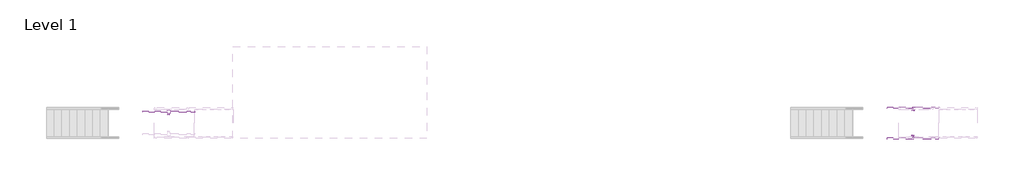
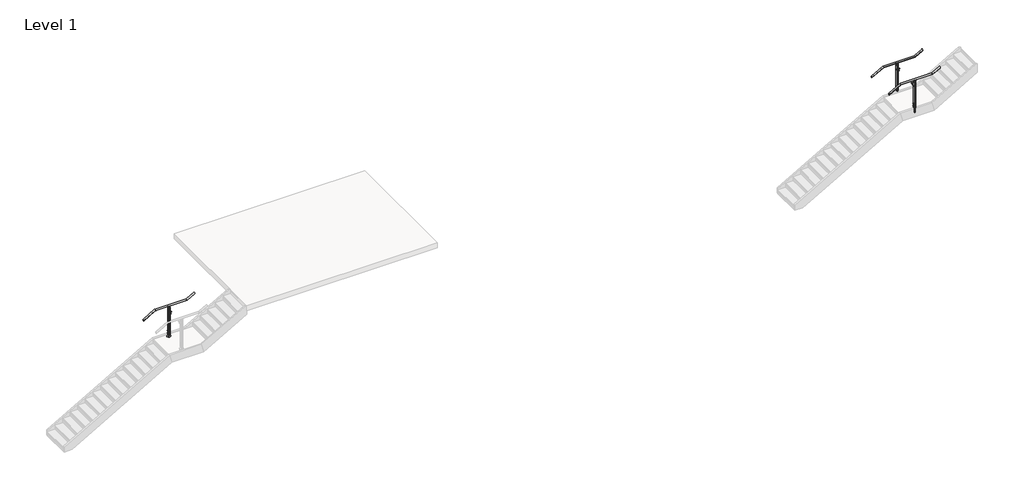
# One storey, part 31 of 36: 3 railings.
"""IFC4 building model written with IfcOpenShell, lengths in millimetres."""

from ifc_helpers import new_model, si_unit, point, frame, frame_2d, origin, place, context, project, spatial, polyline, circle_curve, ellipse_curve, trimmed, segment, composite_curve, outline, extrude, element, save
from ifc_brep_helpers import plane_surface, cylinder_surface, revolved_surface, advanced_brep

model = new_model("IFC4")

# Units and contexts
model_context = context("Model", 3, world=origin())
ifc_project = project(units=[si_unit("LENGTHUNIT", "METRE", prefix="MILLI")], contexts=[model_context])

# Site, building, storey
site = spatial("IfcSite", under=ifc_project)
building = spatial("IfcBuilding", under=site)
storey = spatial("IfcBuildingStorey", under=building, Name="Level 1", Elevation=0.0)

# Railings
placement = place(None, origin())
element("IfcRailing", 1, ObjectType="VIVA-BLADE-CableNet Infill-Panel-Core Mount-Stair-Landing", at=placement, inside=storey, context=model_context, shape_type="SolidModel", body=[
    advanced_brep(
    [(87371.2048368, 33114.0530185, 3047.7740933), (87371.2048368, 33164.8530185, 3047.7740933), (87758.9501735, 33114.0530185, 3269.3428571), (87758.9501735, 33164.8530185, 3269.3428571), (88825.7501735, 33114.0530185, 3269.3428571), (88825.7501735, 33164.8530185, 3269.3428571), (89076.1798368, 33114.0530185, 3412.4455219), (89076.1798368, 33164.8530185, 3412.4455219)],
    [
        (0, 1, ellipse_curve(frame((87371.2048368, 33139.4530185, 3047.7740933), z_axis=(-1.0, 0.0, 0.0), x_axis=(0.0, 0.0, -0.9999999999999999)), 29.2544781, 25.4)),
        (1, 0, ellipse_curve(frame((87371.2048368, 33139.4530185, 3047.7740933), z_axis=(-1.0, 0.0, 0.0), x_axis=(0.0, 0.0, -0.9999999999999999)), 29.2544781, 25.4)),
        (0, 2),
        (2, 3, ellipse_curve(frame((87758.9501735, 33139.4530185, 3269.3428571), z_axis=(-0.9664996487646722, 0.0, -0.2566679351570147), x_axis=(0.25666793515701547, 0.0, -0.9664996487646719)), 26.2804027, 25.4)),
        (3, 1),
        (3, 2, ellipse_curve(frame((87758.9501735, 33139.4530185, 3269.3428571), z_axis=(-0.9664996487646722, 0.0, -0.2566679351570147), x_axis=(0.25666793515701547, 0.0, -0.9664996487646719)), 26.2804027, 25.4)),
        (2, 4),
        (4, 5, ellipse_curve(frame((88825.7501735, 33139.4530185, 3269.3428571), z_axis=(-0.9664996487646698, 0.0, -0.2566679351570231), x_axis=(-0.2566679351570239, 0.0, 0.9664996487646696)), 26.2804027, 25.4)),
        (5, 3),
        (5, 4, ellipse_curve(frame((88825.7501735, 33139.4530185, 3269.3428571), z_axis=(-0.9664996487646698, 0.0, -0.2566679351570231), x_axis=(-0.2566679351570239, 0.0, 0.9664996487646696)), 26.2804027, 25.4)),
        (6, 7, ellipse_curve(frame((89076.1798368, 33139.4530185, 3412.4455219), z_axis=(1.0, 0.0, 0.0), x_axis=(0.0, 0.0, -1.0)), 29.2544781, 25.4)),
        (7, 6, ellipse_curve(frame((89076.1798368, 33139.4530185, 3412.4455219), z_axis=(1.0, 0.0, 0.0), x_axis=(0.0, 0.0, -1.0)), 29.2544781, 25.4)),
        (4, 6),
        (7, 5),
    ],
    [
        plane_surface(frame((87371.2048368, 33139.4530185, 3077.0285714), z_axis=(-1.0, 0.0, 0.0), x_axis=(0.0, 1.0, 0.0))),
        cylinder_surface(frame((87383.8067658, 33139.4530185, 3054.9751956), z_axis=(-0.868243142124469, 0.0, -0.49613893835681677), x_axis=(0.0, 1.0, 0.0)), 25.4),
        cylinder_surface(frame((87752.2048368, 33139.4530185, 3269.3428571), z_axis=(-1.0, 0.0, 0.0), x_axis=(0.0, 1.0, 0.0)), 25.4),
        plane_surface(frame((89076.1798368, 33139.4530185, 3441.7), z_axis=(1.0, 0.0, 0.0), x_axis=(0.0, 1.0, 0.0))),
        cylinder_surface(frame((88831.6067658, 33139.4530185, 3272.6894813), z_axis=(-0.8682431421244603, 0.0, -0.4961389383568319), x_axis=(0.0, 1.0, 0.0)), 25.4),
    ],
    [
        (0, [[1, 2]]),
        (1, [[-1, 3, 4, 5]]),
        (1, [[-2, -5, 6, -3]]),
        (2, [[-4, 7, 8, 9]]),
        (2, [[-6, -9, 10, -7]]),
        (3, [[11, 12]]),
        (4, [[-8, 13, -12, 14]]),
        (4, [[-10, -14, -11, -13]]),
    ],
),
    extrude(outline(composite_curve([segment(trimmed(circle_curve(frame_2d((0.0, -7.0)), 7.0), [point((0.0, -14.0))], [point((0.0, 0.0))], False, "CARTESIAN"), True, "CONTINUOUS"), segment(trimmed(circle_curve(frame_2d((0.0, -7.0)), 7.0), [point((0.0, 0.0))], [point((0.0, -14.0))], False, "CARTESIAN"), True, "CONTINUOUS")], self_intersect=False)), frame((88223.6080869, 33053.7693961, 3013.7229503), z_axis=(0.0012555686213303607, 0.0, 0.999999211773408), x_axis=(0.999999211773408, 0.0, -0.0012555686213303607)), (0.0, 0.0, 1.0), 75.97),
    extrude(outline(composite_curve([segment(polyline([(33059.0510523, 3098.2581672), (33060.0774419, 3097.2407802)]), True, "CONTINUOUS"), segment(trimmed(circle_curve(frame_2d((33059.021464, 3096.1754583)), 1.5), [point((33060.0774419, 3097.2407802))], [point((33060.0068655, 3095.0445366))], False, "CARTESIAN"), True, "CONTINUOUS"), segment(trimmed(circle_curve(frame_2d((33045.521464, 3111.669086)), 22.05), [point((33060.0068655, 3095.0445366))], [point((33031.0360626, 3095.0445366))], False, "CARTESIAN"), True, "CONTINUOUS"), segment(trimmed(circle_curve(frame_2d((33032.021464, 3096.1754583)), 1.5), [point((33031.0360626, 3095.0445366))], [point((33030.9654862, 3097.2407802))], False, "CARTESIAN"), True, "CONTINUOUS"), segment(polyline([(33030.9654862, 3097.2407802), (33031.9918758, 3098.2581672)]), True, "CONTINUOUS"), segment(trimmed(circle_curve(frame_2d((33045.521464, 3111.669086)), 19.05), [point((33031.9918758, 3098.2581672))], [point((33059.0510523, 3098.2581672))], True, "CARTESIAN"), True, "CONTINUOUS")], self_intersect=False)), frame((88187.2567022, 0.0, 0.0), z_axis=(1.0, 0.0, 0.0), x_axis=(0.0, 1.0, 0.0)), (0.0, 0.0, 1.0), 74.5229187),
    extrude(outline(composite_curve([segment(trimmed(circle_curve(frame_2d((3040.5995463, 88223.6679904)), 12.5), [point((3040.5995463, 88211.1679904))], [point((3040.5995463, 88236.1679904))], False, "CARTESIAN"), True, "CONTINUOUS"), segment(trimmed(circle_curve(frame_2d((3040.5995463, 88223.6679904)), 12.5), [point((3040.5995463, 88236.1679904))], [point((3040.5995463, 88211.1679904))], False, "CARTESIAN"), True, "CONTINUOUS")], self_intersect=False)), frame((0.0, 33031.9918758, 0.0), z_axis=(0.0, 1.0, 0.0), x_axis=(0.0, 0.0, 1.0)), (0.0, 0.0, 1.0), 82.061346),
    extrude(outline(polyline([(88250.7671725, 33107.7032218), (88196.6397725, 33107.7032218), (88196.6397725, 33114.0532218), (88250.7671725, 33114.0532218), (88250.7671725, 33107.7032218)])), frame((0.0, 0.0, 3013.6558249), z_axis=(0.0, 0.0, 1.0), x_axis=(1.0, 0.0, 0.0)), (0.0, 0.0, 1.0), 54.1734375),
    extrude(outline(composite_curve([segment(trimmed(circle_curve(frame_2d((88223.6803999, 33142.8889584)), 63.5), [point((88223.6803999, 33206.3889584))], [point((88223.6803999, 33079.3889584))], False, "CARTESIAN"), True, "CONTINUOUS"), segment(trimmed(circle_curve(frame_2d((88223.6803999, 33142.8889584)), 63.5), [point((88223.6803999, 33079.3889584))], [point((88223.6803999, 33206.3889584))], False, "CARTESIAN"), True, "CONTINUOUS")], self_intersect=False)), frame((0.0, 0.0, 2177.1428571), z_axis=(0.0, 0.0, 1.0), x_axis=(1.0, 0.0, 0.0)), (0.0, 0.0, 1.0), 9.525),
    advanced_brep(
    [(88268.9297368, 33126.6928949, 3247.3396226), (88268.9297368, 33122.8569975, 3242.9503901), (88268.9297368, 33154.3738897, 3242.3696317), (88268.9297368, 33151.5649594, 3247.1963856), (88178.4549368, 33126.6928949, 3247.3396226), (88178.4549368, 33151.6519315, 3247.2447018), (88178.4549368, 33154.4876831, 3242.4322535), (88178.4549368, 33122.8569975, 3242.9503901)],
    [
        (0, 1, circle_curve(frame((88268.9297368, 33125.1453372, 3244.8213092), z_axis=(1.0, 0.0, 0.0), x_axis=(0.0, -1.0, 0.0)), 2.9558141)),
        (1, 2, circle_curve(frame((88268.9297368, 33139.1232347, 3270.2170736), z_axis=(1.0, 0.0, 0.0), x_axis=(0.0, -1.0, 0.0)), 31.75)),
        (2, 3, circle_curve(frame((88268.9297368, 33152.8965846, 3244.742217), z_axis=(1.0, 0.0, 0.0), x_axis=(0.0, -1.0, 0.0)), 2.7949225)),
        (3, 0, circle_curve(frame((88268.9297368, 33139.2566978, 3269.4544469), z_axis=(-1.0, 0.0, 0.0), x_axis=(0.0, -1.0, 0.0)), 25.4345159)),
        (4, 5, circle_curve(frame((88178.4549368, 33139.2566978, 3269.4544469), z_axis=(1.0, 0.0, 0.0), x_axis=(0.0, -1.0, 0.0)), 25.4345159)),
        (5, 6, circle_curve(frame((88178.4549368, 33152.8965846, 3244.742217), z_axis=(-1.0, 0.0, 0.0), x_axis=(0.0, -1.0, 0.0)), 2.7949225)),
        (6, 7, circle_curve(frame((88178.4549368, 33139.1232347, 3270.2170736), z_axis=(-1.0, 0.0, 0.0), x_axis=(0.0, -1.0, 0.0)), 31.75)),
        (7, 4, circle_curve(frame((88178.4549368, 33125.1453372, 3244.8213092), z_axis=(-1.0, 0.0, 0.0), x_axis=(0.0, -1.0, 0.0)), 2.9558141)),
        (3, 5),
        (4, 0),
        (2, 6),
        (1, 7),
    ],
    [
        plane_surface(frame((88268.9297368, 33113.8221819, 3269.4544469), z_axis=(1.0, 0.0, 0.0), x_axis=(0.0, 0.0, -1.0))),
        plane_surface(frame((88178.4549368, 33113.8221819, 3269.4544469), z_axis=(-1.0, 0.0, 0.0), x_axis=(0.0, 0.0, 1.0))),
        revolved_surface(polyline([(88178.4549368, 33113.8221819, 3269.4544469), (88268.9297368, 33113.8221819, 3269.4544469)]), (88178.4549368, 33139.2566978, 3269.4544469), (-1.0, 0.0, 0.0)),
        cylinder_surface(frame((88178.4549368, 33152.8965846, 3244.742217), z_axis=(1.0, 0.0, 0.0), x_axis=(0.0, -1.0, 0.0)), 2.7949225),
        cylinder_surface(frame((88178.4549368, 33139.1232347, 3270.2170736), z_axis=(1.0, 0.0, 0.0), x_axis=(0.0, -1.0, 0.0)), 31.75),
        cylinder_surface(frame((88178.4549368, 33125.1453372, 3244.8213092), z_axis=(1.0, 0.0, 0.0), x_axis=(0.0, -1.0, 0.0)), 2.9558141),
    ],
    [
        (0, [[1, 2, 3, 4]]),
        (1, [[5, 6, 7, 8]]),
        (2, [[9, -5, 10, -4]]),
        (3, [[11, -6, -9, -3]]),
        (4, [[12, -7, -11, -2]]),
        (5, [[-10, -8, -12, -1]]),
    ],
),
    advanced_brep(
    [(88236.3923368, 33136.9130185, 3229.6553571), (88250.7602517, 33136.9130185, 3244.023272), (88196.6244219, 33136.9130185, 3244.023272), (88210.9923368, 33136.9130185, 3229.6553571), (88236.3923368, 33141.9930185, 3229.6553571), (88210.9923368, 33141.9930185, 3229.6553571), (88196.6244219, 33141.9930185, 3244.023272), (88250.7602517, 33141.9930185, 3244.023272)],
    [
        (0, 1, circle_curve(frame((88250.7602517, 33136.9130185, 3229.6553571), z_axis=(0.0, 1.0, 0.0), x_axis=(-1.0, 0.0, 0.0)), 14.3679149)),
        (1, 2),
        (2, 3, circle_curve(frame((88196.6244219, 33136.9130185, 3229.6553571), z_axis=(0.0, 1.0, 0.0), x_axis=(-1.0, 0.0, 0.0)), 14.3679149)),
        (3, 0),
        (4, 5),
        (5, 6, circle_curve(frame((88196.6244219, 33141.9930185, 3229.6553571), z_axis=(0.0, -1.0, 0.0), x_axis=(-1.0, 0.0, 0.0)), 14.3679149)),
        (6, 7),
        (7, 4, circle_curve(frame((88250.7602517, 33141.9930185, 3229.6553571), z_axis=(0.0, -1.0, 0.0), x_axis=(-1.0, 0.0, 0.0)), 14.3679149)),
        (3, 5),
        (4, 0),
        (2, 6),
        (1, 7),
    ],
    [
        plane_surface(frame((88210.9923368, 33136.9130185, 3229.6553571), z_axis=(0.0, -1.0, 0.0), x_axis=(-1.0, 0.0, 0.0))),
        plane_surface(frame((88210.9923368, 33141.9930185, 3229.6553571), z_axis=(0.0, 1.0, 0.0), x_axis=(1.0, 0.0, 0.0))),
        plane_surface(frame((88236.3923368, 33136.9130185, 3229.6553571), z_axis=(0.0, 0.0, -1.0), x_axis=(0.0, 1.0, 0.0))),
        revolved_surface(polyline([(88182.256507, 33141.9930185, 3229.6553571), (88182.256507, 33136.9130185, 3229.6553571)]), (88196.6244219, 33141.9930185, 3229.6553571), (0.0, 1.0, 0.0)),
        plane_surface(frame((88196.6244219, 33136.9130185, 3244.023272), z_axis=(0.0, 0.0, 1.0), x_axis=(0.0, 1.0, 0.0))),
        revolved_surface(polyline([(88236.39233680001, 33141.9930185, 3229.6553571), (88236.39233680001, 33136.9130185, 3229.6553571)]), (88250.7602517, 33141.9930185, 3229.6553571), (0.0, 1.0, 0.0)),
    ],
    [
        (0, [[1, 2, 3, 4]]),
        (1, [[5, 6, 7, 8]]),
        (2, [[9, -5, 10, -4]]),
        (3, [[11, -6, -9, -3]]),
        (4, [[12, -7, -11, -2]]),
        (5, [[-10, -8, -12, -1]]),
    ],
),
    extrude(outline(polyline([(88196.6175011, 33114.0532218), (88196.6175011, 33164.8555464), (88204.6423368, 33164.8555464), (88204.6423368, 33114.0532218), (88196.6175011, 33114.0532218)])), frame((0.0, 0.0, 2237.6440557), z_axis=(0.0, 0.0, 1.0), x_axis=(1.0, 0.0, 0.0)), (0.0, 0.0, 1.0), 974.5488015),
    extrude(outline(polyline([(88231.621338, 33114.0536207), (88215.6853476, 33114.0536207), (88215.6853476, 33164.853613), (88231.621338, 33164.853613), (88231.621338, 33114.0536207)])), frame((0.0, 0.0, 2075.5428571), z_axis=(0.0, 0.0, 1.0), x_axis=(1.0, 0.0, 0.0)), (0.0, 0.0, 1.0), 342.9),
    extrude(outline(composite_curve([segment(trimmed(circle_curve(frame_2d((33152.1554954, 3201.2845501)), 8.89), [point((33161.0454954, 3201.2845501))], [point((33143.2654954, 3201.2845501))], False, "CARTESIAN"), True, "CONTINUOUS"), segment(trimmed(circle_curve(frame_2d((33152.1554954, 3201.2845501)), 8.89), [point((33143.2654954, 3201.2845501))], [point((33161.0454954, 3201.2845501))], False, "CARTESIAN"), True, "CONTINUOUS")], self_intersect=False)), frame((88191.9423368, 0.0, 0.0), z_axis=(1.0, 0.0, 0.0), x_axis=(0.0, 1.0, 0.0)), (0.0, 0.0, 1.0), 63.4880631),
    extrude(outline(composite_curve([segment(trimmed(circle_curve(frame_2d((33126.7555975, 3201.2845501)), 8.89), [point((33135.6455975, 3201.2845501))], [point((33117.8655975, 3201.2845501))], False, "CARTESIAN"), True, "CONTINUOUS"), segment(trimmed(circle_curve(frame_2d((33126.7555975, 3201.2845501)), 8.89), [point((33117.8655975, 3201.2845501))], [point((33135.6455975, 3201.2845501))], False, "CARTESIAN"), True, "CONTINUOUS")], self_intersect=False)), frame((88191.9423368, 0.0, 0.0), z_axis=(1.0, 0.0, 0.0), x_axis=(0.0, 1.0, 0.0)), (0.0, 0.0, 1.0), 63.4880631),
    extrude(outline(polyline([(3189.9551571, 88204.6423368), (3189.9551571, 88242.7423368), (3223.3053571, 88242.7423368), (3229.6553571, 88236.3923368), (3229.6553571, 88210.9923368), (3223.3053571, 88204.6423368), (3189.9551571, 88204.6423368)])), frame((0.0, 33114.0530185, 0.0), z_axis=(0.0, 1.0, 0.0), x_axis=(0.0, 0.0, 1.0)), (0.0, 0.0, 1.0), 50.8025279),
    extrude(outline(composite_curve([segment(trimmed(circle_curve(frame_2d((33139.4528128, 2385.1476493)), 19.05), [point((33158.5028128, 2385.1476493))], [point((33120.4028128, 2385.1476493))], False, "CARTESIAN"), True, "CONTINUOUS"), segment(trimmed(circle_curve(frame_2d((33139.4528128, 2385.1476493)), 19.05), [point((33120.4028128, 2385.1476493))], [point((33158.5028128, 2385.1476493))], False, "CARTESIAN"), True, "CONTINUOUS")], self_intersect=False)), frame((88187.2433368, 0.0, 0.0), z_axis=(1.0, 0.0, 0.0), x_axis=(0.0, 1.0, 0.0)), (0.0, 0.0, 1.0), 72.8981531),
    extrude(outline(composite_curve([segment(trimmed(circle_curve(frame_2d((33139.4528128, 2296.2476493)), 19.05), [point((33158.5028128, 2296.2476493))], [point((33120.4028128, 2296.2476493))], False, "CARTESIAN"), True, "CONTINUOUS"), segment(trimmed(circle_curve(frame_2d((33139.4528128, 2296.2476493)), 19.05), [point((33120.4028128, 2296.2476493))], [point((33158.5028128, 2296.2476493))], False, "CARTESIAN"), True, "CONTINUOUS")], self_intersect=False)), frame((88187.2433368, 0.0, 0.0), z_axis=(1.0, 0.0, 0.0), x_axis=(0.0, 1.0, 0.0)), (0.0, 0.0, 1.0), 72.8981531),
    extrude(outline(polyline([(88242.7422988, 33114.0532218), (88242.7422988, 33164.8555464), (88250.7432988, 33164.8555464), (88250.7432988, 33114.0532218), (88242.7422988, 33114.0532218)])), frame((0.0, 0.0, 2237.6440557), z_axis=(0.0, 0.0, 1.0), x_axis=(1.0, 0.0, 0.0)), (0.0, 0.0, 1.0), 974.5488015),
])
element("IfcRailing", 2, ObjectType="VIVA-BLADE-CableNet Infill-Panel-Weld Mounted-Stairs-Landing", at=placement, inside=storey, context=model_context, shape_type="SolidModel", body=[
    advanced_brep(
    [(111921.1786089, 32237.7530185, 3009.6740933), (111921.1786089, 32288.5530185, 3009.6740933), (112308.9239456, 32237.7530185, 3231.2428571), (112308.9239456, 32288.5530185, 3231.2428571), (113375.7239456, 32237.7530185, 3231.2428571), (113375.7239456, 32288.5530185, 3231.2428571), (113626.1536089, 32237.7530185, 3374.3455219), (113626.1536089, 32288.5530185, 3374.3455219)],
    [
        (0, 1, ellipse_curve(frame((111921.1786089, 32263.1530185, 3009.6740933), z_axis=(-1.0, 0.0, 0.0), x_axis=(0.0, 0.0, -0.9999999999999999)), 29.2544781, 25.4)),
        (1, 0, ellipse_curve(frame((111921.1786089, 32263.1530185, 3009.6740933), z_axis=(-1.0, 0.0, 0.0), x_axis=(0.0, 0.0, -0.9999999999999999)), 29.2544781, 25.4)),
        (0, 2),
        (2, 3, ellipse_curve(frame((112308.9239456, 32263.1530185, 3231.2428571), z_axis=(-0.9664996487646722, 0.0, -0.2566679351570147), x_axis=(0.25666793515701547, 0.0, -0.9664996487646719)), 26.2804027, 25.4)),
        (3, 1),
        (3, 2, ellipse_curve(frame((112308.9239456, 32263.1530185, 3231.2428571), z_axis=(-0.9664996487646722, 0.0, -0.2566679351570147), x_axis=(0.25666793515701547, 0.0, -0.9664996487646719)), 26.2804027, 25.4)),
        (2, 4),
        (4, 5, ellipse_curve(frame((113375.7239456, 32263.1530185, 3231.2428571), z_axis=(-0.9664996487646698, 0.0, -0.2566679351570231), x_axis=(-0.2566679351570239, 0.0, 0.9664996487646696)), 26.2804027, 25.4)),
        (5, 3),
        (5, 4, ellipse_curve(frame((113375.7239456, 32263.1530185, 3231.2428571), z_axis=(-0.9664996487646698, 0.0, -0.2566679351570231), x_axis=(-0.2566679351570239, 0.0, 0.9664996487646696)), 26.2804027, 25.4)),
        (6, 7, ellipse_curve(frame((113626.1536089, 32263.1530185, 3374.3455219), z_axis=(1.0, 0.0, 0.0), x_axis=(0.0, 0.0, -1.0)), 29.2544781, 25.4)),
        (7, 6, ellipse_curve(frame((113626.1536089, 32263.1530185, 3374.3455219), z_axis=(1.0, 0.0, 0.0), x_axis=(0.0, 0.0, -1.0)), 29.2544781, 25.4)),
        (4, 6),
        (7, 5),
    ],
    [
        plane_surface(frame((111921.1786089, 32263.1530185, 3038.9285714), z_axis=(-1.0, 0.0, 0.0), x_axis=(0.0, 1.0, 0.0))),
        cylinder_surface(frame((111933.7805379, 32263.1530185, 3016.8751956), z_axis=(-0.868243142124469, 0.0, -0.49613893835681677), x_axis=(0.0, 1.0, 0.0)), 25.4),
        cylinder_surface(frame((112302.1786089, 32263.1530185, 3231.2428571), z_axis=(-1.0, 0.0, 0.0), x_axis=(0.0, 1.0, 0.0)), 25.4),
        plane_surface(frame((113626.1536089, 32263.1530185, 3403.6), z_axis=(1.0, 0.0, 0.0), x_axis=(0.0, 1.0, 0.0))),
        cylinder_surface(frame((113381.5805379, 32263.1530185, 3234.5894813), z_axis=(-0.8682431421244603, 0.0, -0.4961389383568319), x_axis=(0.0, 1.0, 0.0)), 25.4),
    ],
    [
        (0, [[1, 2]]),
        (1, [[-1, 3, 4, 5]]),
        (1, [[-2, -5, 6, -3]]),
        (2, [[-4, 7, 8, 9]]),
        (2, [[-6, -9, 10, -7]]),
        (3, [[11, 12]]),
        (4, [[-8, 13, -12, 14]]),
        (4, [[-10, -14, -11, -13]]),
    ],
),
    extrude(outline(composite_curve([segment(trimmed(circle_curve(frame_2d((0.0, 7.0)), 7.0), [point((0.0, 14.0))], [point((0.0, 0.0))], False, "CARTESIAN"), True, "CONTINUOUS"), segment(trimmed(circle_curve(frame_2d((0.0, 7.0)), 7.0), [point((0.0, 0.0))], [point((0.0, 14.0))], False, "CARTESIAN"), True, "CONTINUOUS")], self_intersect=False)), frame((112773.581859, 32348.8366409, 2975.6229503), z_axis=(0.0012555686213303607, 0.0, 0.999999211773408), x_axis=(0.999999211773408, 0.0, -0.0012555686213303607)), (0.0, 0.0, 1.0), 75.97),
    extrude(outline(composite_curve([segment(trimmed(circle_curve(frame_2d((32357.084573, 3073.569086)), 19.05), [point((32343.5549847, 3060.1581672))], [point((32370.6141612, 3060.1581672))], True, "CARTESIAN"), True, "CONTINUOUS"), segment(polyline([(32370.6141612, 3060.1581672), (32371.6405508, 3059.1407802)]), True, "CONTINUOUS"), segment(trimmed(circle_curve(frame_2d((32370.584573, 3058.0754583)), 1.5), [point((32371.6405508, 3059.1407802))], [point((32371.5699744, 3056.9445366))], False, "CARTESIAN"), True, "CONTINUOUS"), segment(trimmed(circle_curve(frame_2d((32357.084573, 3073.569086)), 22.05), [point((32371.5699744, 3056.9445366))], [point((32342.5991715, 3056.9445366))], False, "CARTESIAN"), True, "CONTINUOUS"), segment(trimmed(circle_curve(frame_2d((32343.584573, 3058.0754583)), 1.5), [point((32342.5991715, 3056.9445366))], [point((32342.5285951, 3059.1407802))], False, "CARTESIAN"), True, "CONTINUOUS"), segment(polyline([(32342.5285951, 3059.1407802), (32343.5549847, 3060.1581672)]), True, "CONTINUOUS")], self_intersect=False)), frame((112737.2304742, 0.0, 0.0), z_axis=(1.0, 0.0, 0.0), x_axis=(0.0, 1.0, 0.0)), (0.0, 0.0, 1.0), 74.5229187),
    extrude(outline(composite_curve([segment(trimmed(circle_curve(frame_2d((3002.4995463, 112773.6417625)), 12.5), [point((3002.4995463, 112761.1417625))], [point((3002.4995463, 112786.1417625))], False, "CARTESIAN"), True, "CONTINUOUS"), segment(trimmed(circle_curve(frame_2d((3002.4995463, 112773.6417625)), 12.5), [point((3002.4995463, 112786.1417625))], [point((3002.4995463, 112761.1417625))], False, "CARTESIAN"), True, "CONTINUOUS")], self_intersect=False)), frame((0.0, 32288.5528152, 0.0), z_axis=(0.0, 1.0, 0.0), x_axis=(0.0, 0.0, 1.0)), (0.0, 0.0, 1.0), 82.061346),
    extrude(outline(polyline([(112800.7409446, 32294.9028152), (112800.7409446, 32288.5528152), (112746.6135446, 32288.5528152), (112746.6135446, 32294.9028152), (112800.7409446, 32294.9028152)])), frame((0.0, 0.0, 2975.5558249), z_axis=(0.0, 0.0, 1.0), x_axis=(1.0, 0.0, 0.0)), (0.0, 0.0, 1.0), 54.1734375),
    advanced_brep(
    [(112818.9035089, 32275.9131421, 3209.2396226), (112818.9035089, 32251.0410776, 3209.0963856), (112818.9035089, 32248.2321473, 3204.2696317), (112818.9035089, 32279.7490396, 3204.8503901), (112728.4287089, 32275.9131421, 3209.2396226), (112728.4287089, 32279.7490396, 3204.8503901), (112728.4287089, 32248.1183539, 3204.3322535), (112728.4287089, 32250.9541055, 3209.1447018)],
    [
        (0, 1, circle_curve(frame((112818.9035089, 32263.3493392, 3231.3544469), z_axis=(-1.0, 0.0, 0.0), x_axis=(0.0, 1.0, 0.0)), 25.4345159)),
        (1, 2, circle_curve(frame((112818.9035089, 32249.7094524, 3206.642217), z_axis=(1.0, 0.0, 0.0), x_axis=(0.0, 1.0, 0.0)), 2.7949225)),
        (2, 3, circle_curve(frame((112818.9035089, 32263.4828023, 3232.1170736), z_axis=(1.0, 0.0, 0.0), x_axis=(0.0, 1.0, 0.0)), 31.75)),
        (3, 0, circle_curve(frame((112818.9035089, 32277.4606998, 3206.7213092), z_axis=(1.0, 0.0, 0.0), x_axis=(0.0, 1.0, 0.0)), 2.9558141)),
        (4, 5, circle_curve(frame((112728.4287089, 32277.4606998, 3206.7213092), z_axis=(-1.0, 0.0, 0.0), x_axis=(0.0, 1.0, 0.0)), 2.9558141)),
        (5, 6, circle_curve(frame((112728.4287089, 32263.4828023, 3232.1170736), z_axis=(-1.0, 0.0, 0.0), x_axis=(0.0, 1.0, 0.0)), 31.75)),
        (6, 7, circle_curve(frame((112728.4287089, 32249.7094524, 3206.642217), z_axis=(-1.0, 0.0, 0.0), x_axis=(0.0, 1.0, 0.0)), 2.7949225)),
        (7, 4, circle_curve(frame((112728.4287089, 32263.3493392, 3231.3544469), z_axis=(1.0, 0.0, 0.0), x_axis=(0.0, 1.0, 0.0)), 25.4345159)),
        (0, 4),
        (7, 1),
        (6, 2),
        (5, 3),
    ],
    [
        plane_surface(frame((112818.9035089, 32288.7838551, 3231.3544469), z_axis=(1.0, 0.0, 0.0), x_axis=(0.0, 0.0, -1.0))),
        plane_surface(frame((112728.4287089, 32288.7838551, 3231.3544469), z_axis=(-1.0, 0.0, 0.0), x_axis=(0.0, 0.0, 1.0))),
        revolved_surface(polyline([(112728.4287089, 32288.7838551, 3231.3544469), (112818.9035089, 32288.7838551, 3231.3544469)]), (112728.4287089, 32263.3493392, 3231.3544469), (-1.0, 0.0, 0.0)),
        cylinder_surface(frame((112728.4287089, 32249.7094524, 3206.642217), z_axis=(1.0, 0.0, 0.0), x_axis=(0.0, 1.0, 0.0)), 2.7949225),
        cylinder_surface(frame((112728.4287089, 32263.4828023, 3232.1170736), z_axis=(1.0, 0.0, 0.0), x_axis=(0.0, 1.0, 0.0)), 31.75),
        cylinder_surface(frame((112728.4287089, 32277.4606998, 3206.7213092), z_axis=(1.0, 0.0, 0.0), x_axis=(0.0, 1.0, 0.0)), 2.9558141),
    ],
    [
        (0, [[1, 2, 3, 4]]),
        (1, [[5, 6, 7, 8]]),
        (2, [[-1, 9, -8, 10]]),
        (3, [[-2, -10, -7, 11]]),
        (4, [[-3, -11, -6, 12]]),
        (5, [[-4, -12, -5, -9]]),
    ],
),
    advanced_brep(
    [(112786.3661089, 32265.6930185, 3191.5553571), (112760.9661089, 32265.6930185, 3191.5553571), (112746.598194, 32265.6930185, 3205.923272), (112800.7340237, 32265.6930185, 3205.923272), (112786.3661089, 32260.6130185, 3191.5553571), (112800.7340237, 32260.6130185, 3205.923272), (112746.598194, 32260.6130185, 3205.923272), (112760.9661089, 32260.6130185, 3191.5553571)],
    [
        (0, 1),
        (1, 2, circle_curve(frame((112746.598194, 32265.6930185, 3191.5553571), z_axis=(0.0, -1.0, 0.0), x_axis=(-1.0, 0.0, 0.0)), 14.3679149)),
        (2, 3),
        (3, 0, circle_curve(frame((112800.7340237, 32265.6930185, 3191.5553571), z_axis=(0.0, -1.0, 0.0), x_axis=(-1.0, 0.0, 0.0)), 14.3679149)),
        (4, 5, circle_curve(frame((112800.7340237, 32260.6130185, 3191.5553571), z_axis=(0.0, 1.0, 0.0), x_axis=(-1.0, 0.0, 0.0)), 14.3679149)),
        (5, 6),
        (6, 7, circle_curve(frame((112746.598194, 32260.6130185, 3191.5553571), z_axis=(0.0, 1.0, 0.0), x_axis=(-1.0, 0.0, 0.0)), 14.3679149)),
        (7, 4),
        (0, 4),
        (7, 1),
        (6, 2),
        (5, 3),
    ],
    [
        plane_surface(frame((112760.9661089, 32265.6930185, 3191.5553571), z_axis=(0.0, 1.0, 0.0), x_axis=(-1.0, 0.0, 0.0))),
        plane_surface(frame((112760.9661089, 32260.6130185, 3191.5553571), z_axis=(0.0, -1.0, 0.0), x_axis=(1.0, 0.0, 0.0))),
        plane_surface(frame((112786.3661089, 32265.6930185, 3191.5553571), z_axis=(0.0, 0.0, -1.0), x_axis=(0.0, -1.0, 0.0))),
        revolved_surface(polyline([(112732.23027910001, 32260.6130185, 3191.5553571), (112732.23027910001, 32265.6930185, 3191.5553571)]), (112746.598194, 32260.6130185, 3191.5553571), (0.0, -1.0, 0.0)),
        plane_surface(frame((112746.598194, 32265.6930185, 3205.923272), z_axis=(0.0, 0.0, 1.0), x_axis=(0.0, -1.0, 0.0))),
        revolved_surface(polyline([(112786.36610880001, 32260.6130185, 3191.5553571), (112786.36610880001, 32265.6930185, 3191.5553571)]), (112800.7340237, 32260.6130185, 3191.5553571), (0.0, -1.0, 0.0)),
    ],
    [
        (0, [[1, 2, 3, 4]]),
        (1, [[5, 6, 7, 8]]),
        (2, [[-1, 9, -8, 10]]),
        (3, [[-2, -10, -7, 11]]),
        (4, [[-3, -11, -6, 12]]),
        (5, [[-4, -12, -5, -9]]),
    ],
),
    extrude(outline(polyline([(112746.5912732, 32288.5528152), (112754.6161089, 32288.5528152), (112754.6161089, 32237.7504906), (112746.5912732, 32237.7504906), (112746.5912732, 32288.5528152)])), frame((0.0, 0.0, 2237.6440557), z_axis=(0.0, 0.0, 1.0), x_axis=(1.0, 0.0, 0.0)), (0.0, 0.0, 1.0), 936.4488015),
    extrude(outline(polyline([(112781.5951101, 32288.5524163), (112781.5951101, 32237.752424), (112765.6591197, 32237.752424), (112765.6591197, 32288.5524163), (112781.5951101, 32288.5524163)])), frame((0.0, 0.0, 2075.5428571), z_axis=(0.0, 0.0, 1.0), x_axis=(1.0, 0.0, 0.0)), (0.0, 0.0, 1.0), 342.9),
    extrude(outline(composite_curve([segment(trimmed(circle_curve(frame_2d((32250.4505416, 3163.1845501)), 8.89), [point((32241.5605416, 3163.1845501))], [point((32259.3405416, 3163.1845501))], False, "CARTESIAN"), True, "CONTINUOUS"), segment(trimmed(circle_curve(frame_2d((32250.4505416, 3163.1845501)), 8.89), [point((32259.3405416, 3163.1845501))], [point((32241.5605416, 3163.1845501))], False, "CARTESIAN"), True, "CONTINUOUS")], self_intersect=False)), frame((112741.9161089, 0.0, 0.0), z_axis=(1.0, 0.0, 0.0), x_axis=(0.0, 1.0, 0.0)), (0.0, 0.0, 1.0), 63.4880631),
    extrude(outline(composite_curve([segment(trimmed(circle_curve(frame_2d((32275.8504395, 3163.1845501)), 8.89), [point((32266.9604395, 3163.1845501))], [point((32284.7404395, 3163.1845501))], False, "CARTESIAN"), True, "CONTINUOUS"), segment(trimmed(circle_curve(frame_2d((32275.8504395, 3163.1845501)), 8.89), [point((32284.7404395, 3163.1845501))], [point((32266.9604395, 3163.1845501))], False, "CARTESIAN"), True, "CONTINUOUS")], self_intersect=False)), frame((112741.9161089, 0.0, 0.0), z_axis=(1.0, 0.0, 0.0), x_axis=(0.0, 1.0, 0.0)), (0.0, 0.0, 1.0), 63.4880631),
    extrude(outline(polyline([(3151.8551571, 112754.6161089), (3151.8551571, 112792.7161089), (3185.2053571, 112792.7161089), (3191.5553571, 112786.3661089), (3191.5553571, 112760.9661089), (3185.2053571, 112754.6161089), (3151.8551571, 112754.6161089)])), frame((0.0, 32237.7504906, 0.0), z_axis=(0.0, 1.0, 0.0), x_axis=(0.0, 0.0, 1.0)), (0.0, 0.0, 1.0), 50.8025279),
    extrude(outline(composite_curve([segment(trimmed(circle_curve(frame_2d((32263.1532242, 2385.1476493)), 19.05), [point((32244.1032242, 2385.1476493))], [point((32282.2032242, 2385.1476493))], False, "CARTESIAN"), True, "CONTINUOUS"), segment(trimmed(circle_curve(frame_2d((32263.1532242, 2385.1476493)), 19.05), [point((32282.2032242, 2385.1476493))], [point((32244.1032242, 2385.1476493))], False, "CARTESIAN"), True, "CONTINUOUS")], self_intersect=False)), frame((112737.2171089, 0.0, 0.0), z_axis=(1.0, 0.0, 0.0), x_axis=(0.0, 1.0, 0.0)), (0.0, 0.0, 1.0), 72.8981531),
    extrude(outline(composite_curve([segment(trimmed(circle_curve(frame_2d((32263.1532242, 2296.2476493)), 19.05), [point((32244.1032242, 2296.2476493))], [point((32282.2032242, 2296.2476493))], False, "CARTESIAN"), True, "CONTINUOUS"), segment(trimmed(circle_curve(frame_2d((32263.1532242, 2296.2476493)), 19.05), [point((32282.2032242, 2296.2476493))], [point((32244.1032242, 2296.2476493))], False, "CARTESIAN"), True, "CONTINUOUS")], self_intersect=False)), frame((112737.2171089, 0.0, 0.0), z_axis=(1.0, 0.0, 0.0), x_axis=(0.0, 1.0, 0.0)), (0.0, 0.0, 1.0), 72.8981531),
    extrude(outline(polyline([(112792.7160708, 32288.5528152), (112800.7170708, 32288.5528152), (112800.7170708, 32237.7504906), (112792.7160708, 32237.7504906), (112792.7160708, 32288.5528152)])), frame((0.0, 0.0, 2237.6440557), z_axis=(0.0, 0.0, 1.0), x_axis=(1.0, 0.0, 0.0)), (0.0, 0.0, 1.0), 936.4488015),
])
element("IfcRailing", 3, ObjectType="VIVA-BLADE-CableNet Infill-Panel-Weld Mounted-Stairs-Landing", at=placement, inside=storey, context=model_context, shape_type="SolidModel", body=[
    advanced_brep(
    [(111921.1786089, 33253.7530185, 3009.6740933), (111921.1786089, 33304.5530185, 3009.6740933), (112308.9239456, 33253.7530185, 3231.2428571), (112308.9239456, 33304.5530185, 3231.2428571), (113375.7239456, 33253.7530185, 3231.2428571), (113375.7239456, 33304.5530185, 3231.2428571), (113626.1536089, 33253.7530185, 3374.3455219), (113626.1536089, 33304.5530185, 3374.3455219)],
    [
        (0, 1, ellipse_curve(frame((111921.1786089, 33279.1530185, 3009.6740933), z_axis=(-1.0, 0.0, 0.0), x_axis=(0.0, 0.0, -0.9999999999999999)), 29.2544781, 25.4)),
        (1, 0, ellipse_curve(frame((111921.1786089, 33279.1530185, 3009.6740933), z_axis=(-1.0, 0.0, 0.0), x_axis=(0.0, 0.0, -0.9999999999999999)), 29.2544781, 25.4)),
        (0, 2),
        (2, 3, ellipse_curve(frame((112308.9239456, 33279.1530185, 3231.2428571), z_axis=(-0.9664996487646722, 0.0, -0.2566679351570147), x_axis=(0.25666793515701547, 0.0, -0.9664996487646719)), 26.2804027, 25.4)),
        (3, 1),
        (3, 2, ellipse_curve(frame((112308.9239456, 33279.1530185, 3231.2428571), z_axis=(-0.9664996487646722, 0.0, -0.2566679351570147), x_axis=(0.25666793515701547, 0.0, -0.9664996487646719)), 26.2804027, 25.4)),
        (2, 4),
        (4, 5, ellipse_curve(frame((113375.7239456, 33279.1530185, 3231.2428571), z_axis=(-0.9664996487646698, 0.0, -0.2566679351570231), x_axis=(-0.2566679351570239, 0.0, 0.9664996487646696)), 26.2804027, 25.4)),
        (5, 3),
        (5, 4, ellipse_curve(frame((113375.7239456, 33279.1530185, 3231.2428571), z_axis=(-0.9664996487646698, 0.0, -0.2566679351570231), x_axis=(-0.2566679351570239, 0.0, 0.9664996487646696)), 26.2804027, 25.4)),
        (6, 7, ellipse_curve(frame((113626.1536089, 33279.1530185, 3374.3455219), z_axis=(1.0, 0.0, 0.0), x_axis=(0.0, 0.0, -1.0)), 29.2544781, 25.4)),
        (7, 6, ellipse_curve(frame((113626.1536089, 33279.1530185, 3374.3455219), z_axis=(1.0, 0.0, 0.0), x_axis=(0.0, 0.0, -1.0)), 29.2544781, 25.4)),
        (4, 6),
        (7, 5),
    ],
    [
        plane_surface(frame((111921.1786089, 33279.1530185, 3038.9285714), z_axis=(-1.0, 0.0, 0.0), x_axis=(0.0, 1.0, 0.0))),
        cylinder_surface(frame((111933.7805379, 33279.1530185, 3016.8751956), z_axis=(-0.868243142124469, 0.0, -0.49613893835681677), x_axis=(0.0, 1.0, 0.0)), 25.4),
        cylinder_surface(frame((112302.1786089, 33279.1530185, 3231.2428571), z_axis=(-1.0, 0.0, 0.0), x_axis=(0.0, 1.0, 0.0)), 25.4),
        plane_surface(frame((113626.1536089, 33279.1530185, 3403.6), z_axis=(1.0, 0.0, 0.0), x_axis=(0.0, 1.0, 0.0))),
        cylinder_surface(frame((113381.5805379, 33279.1530185, 3234.5894813), z_axis=(-0.8682431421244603, 0.0, -0.4961389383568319), x_axis=(0.0, 1.0, 0.0)), 25.4),
    ],
    [
        (0, [[1, 2]]),
        (1, [[-1, 3, 4, 5]]),
        (1, [[-2, -5, 6, -3]]),
        (2, [[-4, 7, 8, 9]]),
        (2, [[-6, -9, 10, -7]]),
        (3, [[11, 12]]),
        (4, [[-8, 13, -12, 14]]),
        (4, [[-10, -14, -11, -13]]),
    ],
),
    extrude(outline(composite_curve([segment(trimmed(circle_curve(frame_2d((0.0, -7.0)), 7.0), [point((0.0, -14.0))], [point((0.0, 0.0))], False, "CARTESIAN"), True, "CONTINUOUS"), segment(trimmed(circle_curve(frame_2d((0.0, -7.0)), 7.0), [point((0.0, 0.0))], [point((0.0, -14.0))], False, "CARTESIAN"), True, "CONTINUOUS")], self_intersect=False)), frame((112773.581859, 33193.4693961, 2975.6229503), z_axis=(0.0012555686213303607, 0.0, 0.999999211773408), x_axis=(0.999999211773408, 0.0, -0.0012555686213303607)), (0.0, 0.0, 1.0), 75.97),
    extrude(outline(composite_curve([segment(polyline([(33198.7510523, 3060.1581672), (33199.7774419, 3059.1407802)]), True, "CONTINUOUS"), segment(trimmed(circle_curve(frame_2d((33198.721464, 3058.0754583)), 1.5), [point((33199.7774419, 3059.1407802))], [point((33199.7068655, 3056.9445366))], False, "CARTESIAN"), True, "CONTINUOUS"), segment(trimmed(circle_curve(frame_2d((33185.221464, 3073.569086)), 22.05), [point((33199.7068655, 3056.9445366))], [point((33170.7360626, 3056.9445366))], False, "CARTESIAN"), True, "CONTINUOUS"), segment(trimmed(circle_curve(frame_2d((33171.721464, 3058.0754583)), 1.5), [point((33170.7360626, 3056.9445366))], [point((33170.6654862, 3059.1407802))], False, "CARTESIAN"), True, "CONTINUOUS"), segment(polyline([(33170.6654862, 3059.1407802), (33171.6918758, 3060.1581672)]), True, "CONTINUOUS"), segment(trimmed(circle_curve(frame_2d((33185.221464, 3073.569086)), 19.05), [point((33171.6918758, 3060.1581672))], [point((33198.7510523, 3060.1581672))], True, "CARTESIAN"), True, "CONTINUOUS")], self_intersect=False)), frame((112737.2304742, 0.0, 0.0), z_axis=(1.0, 0.0, 0.0), x_axis=(0.0, 1.0, 0.0)), (0.0, 0.0, 1.0), 74.5229187),
    extrude(outline(composite_curve([segment(trimmed(circle_curve(frame_2d((3002.4995463, 112773.6417625)), 12.5), [point((3002.4995463, 112761.1417625))], [point((3002.4995463, 112786.1417625))], False, "CARTESIAN"), True, "CONTINUOUS"), segment(trimmed(circle_curve(frame_2d((3002.4995463, 112773.6417625)), 12.5), [point((3002.4995463, 112786.1417625))], [point((3002.4995463, 112761.1417625))], False, "CARTESIAN"), True, "CONTINUOUS")], self_intersect=False)), frame((0.0, 33171.6918758, 0.0), z_axis=(0.0, 1.0, 0.0), x_axis=(0.0, 0.0, 1.0)), (0.0, 0.0, 1.0), 82.061346),
    extrude(outline(polyline([(112800.7409446, 33247.4032218), (112746.6135446, 33247.4032218), (112746.6135446, 33253.7532218), (112800.7409446, 33253.7532218), (112800.7409446, 33247.4032218)])), frame((0.0, 0.0, 2975.5558249), z_axis=(0.0, 0.0, 1.0), x_axis=(1.0, 0.0, 0.0)), (0.0, 0.0, 1.0), 54.1734375),
    advanced_brep(
    [(112818.9035089, 33266.3928949, 3209.2396226), (112818.9035089, 33262.5569975, 3204.8503901), (112818.9035089, 33294.0738897, 3204.2696317), (112818.9035089, 33291.2649594, 3209.0963856), (112728.4287089, 33266.3928949, 3209.2396226), (112728.4287089, 33291.3519315, 3209.1447018), (112728.4287089, 33294.1876831, 3204.3322535), (112728.4287089, 33262.5569975, 3204.8503901)],
    [
        (0, 1, circle_curve(frame((112818.9035089, 33264.8453372, 3206.7213092), z_axis=(1.0, 0.0, 0.0), x_axis=(0.0, -1.0, 0.0)), 2.9558141)),
        (1, 2, circle_curve(frame((112818.9035089, 33278.8232347, 3232.1170736), z_axis=(1.0, 0.0, 0.0), x_axis=(0.0, -1.0, 0.0)), 31.75)),
        (2, 3, circle_curve(frame((112818.9035089, 33292.5965846, 3206.642217), z_axis=(1.0, 0.0, 0.0), x_axis=(0.0, -1.0, 0.0)), 2.7949225)),
        (3, 0, circle_curve(frame((112818.9035089, 33278.9566978, 3231.3544469), z_axis=(-1.0, 0.0, 0.0), x_axis=(0.0, -1.0, 0.0)), 25.4345159)),
        (4, 5, circle_curve(frame((112728.4287089, 33278.9566978, 3231.3544469), z_axis=(1.0, 0.0, 0.0), x_axis=(0.0, -1.0, 0.0)), 25.4345159)),
        (5, 6, circle_curve(frame((112728.4287089, 33292.5965846, 3206.642217), z_axis=(-1.0, 0.0, 0.0), x_axis=(0.0, -1.0, 0.0)), 2.7949225)),
        (6, 7, circle_curve(frame((112728.4287089, 33278.8232347, 3232.1170736), z_axis=(-1.0, 0.0, 0.0), x_axis=(0.0, -1.0, 0.0)), 31.75)),
        (7, 4, circle_curve(frame((112728.4287089, 33264.8453372, 3206.7213092), z_axis=(-1.0, 0.0, 0.0), x_axis=(0.0, -1.0, 0.0)), 2.9558141)),
        (3, 5),
        (4, 0),
        (2, 6),
        (1, 7),
    ],
    [
        plane_surface(frame((112818.9035089, 33253.5221819, 3231.3544469), z_axis=(1.0, 0.0, 0.0), x_axis=(0.0, 0.0, -1.0))),
        plane_surface(frame((112728.4287089, 33253.5221819, 3231.3544469), z_axis=(-1.0, 0.0, 0.0), x_axis=(0.0, 0.0, 1.0))),
        revolved_surface(polyline([(112728.4287089, 33253.5221819, 3231.3544469), (112818.9035089, 33253.5221819, 3231.3544469)]), (112728.4287089, 33278.9566978, 3231.3544469), (-1.0, 0.0, 0.0)),
        cylinder_surface(frame((112728.4287089, 33292.5965846, 3206.642217), z_axis=(1.0, 0.0, 0.0), x_axis=(0.0, -1.0, 0.0)), 2.7949225),
        cylinder_surface(frame((112728.4287089, 33278.8232347, 3232.1170736), z_axis=(1.0, 0.0, 0.0), x_axis=(0.0, -1.0, 0.0)), 31.75),
        cylinder_surface(frame((112728.4287089, 33264.8453372, 3206.7213092), z_axis=(1.0, 0.0, 0.0), x_axis=(0.0, -1.0, 0.0)), 2.9558141),
    ],
    [
        (0, [[1, 2, 3, 4]]),
        (1, [[5, 6, 7, 8]]),
        (2, [[9, -5, 10, -4]]),
        (3, [[11, -6, -9, -3]]),
        (4, [[12, -7, -11, -2]]),
        (5, [[-10, -8, -12, -1]]),
    ],
),
    advanced_brep(
    [(112786.3661089, 33276.6130185, 3191.5553571), (112800.7340237, 33276.6130185, 3205.923272), (112746.598194, 33276.6130185, 3205.923272), (112760.9661089, 33276.6130185, 3191.5553571), (112786.3661089, 33281.6930185, 3191.5553571), (112760.9661089, 33281.6930185, 3191.5553571), (112746.598194, 33281.6930185, 3205.923272), (112800.7340237, 33281.6930185, 3205.923272)],
    [
        (0, 1, circle_curve(frame((112800.7340237, 33276.6130185, 3191.5553571), z_axis=(0.0, 1.0, 0.0), x_axis=(-1.0, 0.0, 0.0)), 14.3679149)),
        (1, 2),
        (2, 3, circle_curve(frame((112746.598194, 33276.6130185, 3191.5553571), z_axis=(0.0, 1.0, 0.0), x_axis=(-1.0, 0.0, 0.0)), 14.3679149)),
        (3, 0),
        (4, 5),
        (5, 6, circle_curve(frame((112746.598194, 33281.6930185, 3191.5553571), z_axis=(0.0, -1.0, 0.0), x_axis=(-1.0, 0.0, 0.0)), 14.3679149)),
        (6, 7),
        (7, 4, circle_curve(frame((112800.7340237, 33281.6930185, 3191.5553571), z_axis=(0.0, -1.0, 0.0), x_axis=(-1.0, 0.0, 0.0)), 14.3679149)),
        (3, 5),
        (4, 0),
        (2, 6),
        (1, 7),
    ],
    [
        plane_surface(frame((112760.9661089, 33276.6130185, 3191.5553571), z_axis=(0.0, -1.0, 0.0), x_axis=(-1.0, 0.0, 0.0))),
        plane_surface(frame((112760.9661089, 33281.6930185, 3191.5553571), z_axis=(0.0, 1.0, 0.0), x_axis=(1.0, 0.0, 0.0))),
        plane_surface(frame((112786.3661089, 33276.6130185, 3191.5553571), z_axis=(0.0, 0.0, -1.0), x_axis=(0.0, 1.0, 0.0))),
        revolved_surface(polyline([(112732.23027910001, 33281.6930185, 3191.5553571), (112732.23027910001, 33276.6130185, 3191.5553571)]), (112746.598194, 33281.6930185, 3191.5553571), (0.0, 1.0, 0.0)),
        plane_surface(frame((112746.598194, 33276.6130185, 3205.923272), z_axis=(0.0, 0.0, 1.0), x_axis=(0.0, 1.0, 0.0))),
        revolved_surface(polyline([(112786.36610880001, 33281.6930185, 3191.5553571), (112786.36610880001, 33276.6130185, 3191.5553571)]), (112800.7340237, 33281.6930185, 3191.5553571), (0.0, 1.0, 0.0)),
    ],
    [
        (0, [[1, 2, 3, 4]]),
        (1, [[5, 6, 7, 8]]),
        (2, [[9, -5, 10, -4]]),
        (3, [[11, -6, -9, -3]]),
        (4, [[12, -7, -11, -2]]),
        (5, [[-10, -8, -12, -1]]),
    ],
),
    extrude(outline(polyline([(112746.5912732, 33253.7532218), (112746.5912732, 33304.5555464), (112754.6161089, 33304.5555464), (112754.6161089, 33253.7532218), (112746.5912732, 33253.7532218)])), frame((0.0, 0.0, 2237.6440557), z_axis=(0.0, 0.0, 1.0), x_axis=(1.0, 0.0, 0.0)), (0.0, 0.0, 1.0), 936.4488015),
    extrude(outline(polyline([(112781.5951101, 33253.7536207), (112765.6591197, 33253.7536207), (112765.6591197, 33304.553613), (112781.5951101, 33304.553613), (112781.5951101, 33253.7536207)])), frame((0.0, 0.0, 2075.5428571), z_axis=(0.0, 0.0, 1.0), x_axis=(1.0, 0.0, 0.0)), (0.0, 0.0, 1.0), 342.9),
    extrude(outline(composite_curve([segment(trimmed(circle_curve(frame_2d((33291.8554954, 3163.1845501)), 8.89), [point((33300.7454954, 3163.1845501))], [point((33282.9654954, 3163.1845501))], False, "CARTESIAN"), True, "CONTINUOUS"), segment(trimmed(circle_curve(frame_2d((33291.8554954, 3163.1845501)), 8.89), [point((33282.9654954, 3163.1845501))], [point((33300.7454954, 3163.1845501))], False, "CARTESIAN"), True, "CONTINUOUS")], self_intersect=False)), frame((112741.9161089, 0.0, 0.0), z_axis=(1.0, 0.0, 0.0), x_axis=(0.0, 1.0, 0.0)), (0.0, 0.0, 1.0), 63.4880631),
    extrude(outline(composite_curve([segment(trimmed(circle_curve(frame_2d((33266.4555975, 3163.1845501)), 8.89), [point((33275.3455975, 3163.1845501))], [point((33257.5655975, 3163.1845501))], False, "CARTESIAN"), True, "CONTINUOUS"), segment(trimmed(circle_curve(frame_2d((33266.4555975, 3163.1845501)), 8.89), [point((33257.5655975, 3163.1845501))], [point((33275.3455975, 3163.1845501))], False, "CARTESIAN"), True, "CONTINUOUS")], self_intersect=False)), frame((112741.9161089, 0.0, 0.0), z_axis=(1.0, 0.0, 0.0), x_axis=(0.0, 1.0, 0.0)), (0.0, 0.0, 1.0), 63.4880631),
    extrude(outline(polyline([(3151.8551571, 112754.6161089), (3151.8551571, 112792.7161089), (3185.2053571, 112792.7161089), (3191.5553571, 112786.3661089), (3191.5553571, 112760.9661089), (3185.2053571, 112754.6161089), (3151.8551571, 112754.6161089)])), frame((0.0, 33253.7530185, 0.0), z_axis=(0.0, 1.0, 0.0), x_axis=(0.0, 0.0, 1.0)), (0.0, 0.0, 1.0), 50.8025279),
    extrude(outline(composite_curve([segment(trimmed(circle_curve(frame_2d((33279.1528128, 2385.1476493)), 19.05), [point((33298.2028128, 2385.1476493))], [point((33260.1028128, 2385.1476493))], False, "CARTESIAN"), True, "CONTINUOUS"), segment(trimmed(circle_curve(frame_2d((33279.1528128, 2385.1476493)), 19.05), [point((33260.1028128, 2385.1476493))], [point((33298.2028128, 2385.1476493))], False, "CARTESIAN"), True, "CONTINUOUS")], self_intersect=False)), frame((112737.2171089, 0.0, 0.0), z_axis=(1.0, 0.0, 0.0), x_axis=(0.0, 1.0, 0.0)), (0.0, 0.0, 1.0), 72.8981531),
    extrude(outline(composite_curve([segment(trimmed(circle_curve(frame_2d((33279.1528128, 2296.2476493)), 19.05), [point((33298.2028128, 2296.2476493))], [point((33260.1028128, 2296.2476493))], False, "CARTESIAN"), True, "CONTINUOUS"), segment(trimmed(circle_curve(frame_2d((33279.1528128, 2296.2476493)), 19.05), [point((33260.1028128, 2296.2476493))], [point((33298.2028128, 2296.2476493))], False, "CARTESIAN"), True, "CONTINUOUS")], self_intersect=False)), frame((112737.2171089, 0.0, 0.0), z_axis=(1.0, 0.0, 0.0), x_axis=(0.0, 1.0, 0.0)), (0.0, 0.0, 1.0), 72.8981531),
    extrude(outline(polyline([(112792.7160708, 33253.7532218), (112792.7160708, 33304.5555464), (112800.7170708, 33304.5555464), (112800.7170708, 33253.7532218), (112792.7160708, 33253.7532218)])), frame((0.0, 0.0, 2237.6440557), z_axis=(0.0, 0.0, 1.0), x_axis=(1.0, 0.0, 0.0)), (0.0, 0.0, 1.0), 936.4488015),
])

save(model, "model.ifc")
